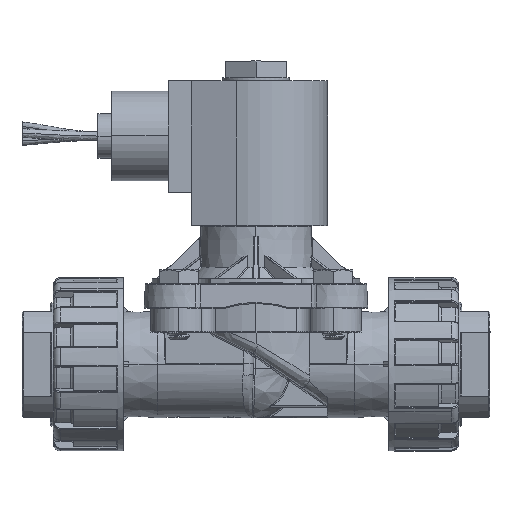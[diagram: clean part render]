
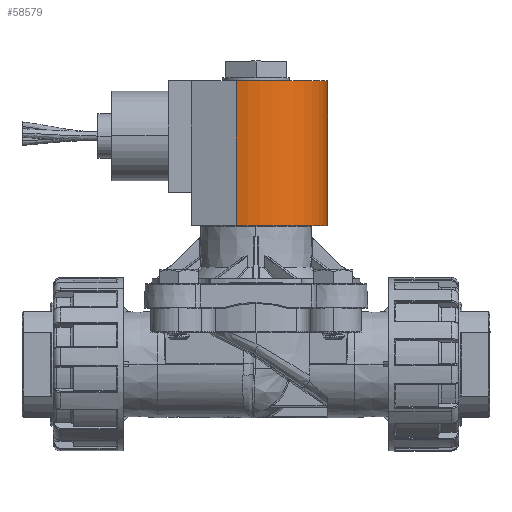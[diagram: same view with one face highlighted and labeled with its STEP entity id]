
A CAD part, top view. The second image highlights one B-rep face of the part: STEP entity #58579.
In plain terms, the highlighted cylindrical face has radius 20.32 mm (diameter 40.64 mm), a partial arc.
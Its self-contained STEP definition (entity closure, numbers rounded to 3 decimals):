
#809 = FACE_OUTER_BOUND ( 'NONE', #121143, .T. ) ;
#2674 = CIRCLE ( 'NONE', #22623, 20.32 ) ;
#6410 = DIRECTION ( 'NONE',  ( 0., 1., 0. ) ) ;
#6596 = ORIENTED_EDGE ( 'NONE', *, *, #27819, .T. ) ;
#22182 = ORIENTED_EDGE ( 'NONE', *, *, #112175, .T. ) ;
#22623 = AXIS2_PLACEMENT_3D ( 'NONE', #64410, #6410, #44488 ) ;
#24454 = EDGE_CURVE ( 'NONE', #75391, #77010, #2674, .T. ) ;
#25449 = DIRECTION ( 'NONE',  ( 0., -1., 0. ) ) ;
#27819 = EDGE_CURVE ( 'NONE', #33010, #83760, #36796, .T. ) ;
#28473 = EDGE_CURVE ( 'NONE', #77010, #83760, #91597, .T. ) ;
#33010 = VERTEX_POINT ( 'NONE', #121516 ) ;
#36796 = CIRCLE ( 'NONE', #100548, 20.32 ) ;
#39471 = CARTESIAN_POINT ( 'NONE',  ( 0., 73.508, 0. ) ) ;
#41642 = DIRECTION ( 'NONE',  ( 0., -1., 0. ) ) ;
#43560 = CARTESIAN_POINT ( 'NONE',  ( 20.32, 73.508, 0. ) ) ;
#44488 = DIRECTION ( 'NONE',  ( -1., 0., 0. ) ) ;
#48182 = CARTESIAN_POINT ( 'NONE',  ( 20.32, 32.36, 0. ) ) ;
#58579 = ADVANCED_FACE ( 'Defeatured_0_1789', ( #809 ), #96238, .T. ) ;
#64410 = CARTESIAN_POINT ( 'NONE',  ( 0., 73.508, 0. ) ) ;
#67657 = CARTESIAN_POINT ( 'NONE',  ( -5.608, 73.508, 19.531 ) ) ;
#68029 = VECTOR ( 'NONE', #41642, 1000. ) ;
#68150 = DIRECTION ( 'NONE',  ( 1., 0., 0. ) ) ;
#73786 = DIRECTION ( 'NONE',  ( -1., 0., 0. ) ) ;
#75391 = VERTEX_POINT ( 'NONE', #67657 ) ;
#77010 = VERTEX_POINT ( 'NONE', #105371 ) ;
#81117 = AXIS2_PLACEMENT_3D ( 'NONE', #39471, #115512, #68150 ) ;
#82559 = DIRECTION ( 'NONE',  ( 0., 1., 0. ) ) ;
#83760 = VERTEX_POINT ( 'NONE', #48182 ) ;
#86050 = ORIENTED_EDGE ( 'NONE', *, *, #28473, .F. ) ;
#91597 = LINE ( 'NONE', #43560, #102589 ) ;
#96238 = CYLINDRICAL_SURFACE ( 'NONE', #81117, 20.32 ) ;
#100548 = AXIS2_PLACEMENT_3D ( 'NONE', #101836, #82559, #73786 ) ;
#101836 = CARTESIAN_POINT ( 'NONE',  ( 0., 32.36, 0. ) ) ;
#102589 = VECTOR ( 'NONE', #25449, 1000. ) ;
#105371 = CARTESIAN_POINT ( 'NONE',  ( 20.32, 73.508, 0. ) ) ;
#112175 = EDGE_CURVE ( 'NONE', #75391, #33010, #118281, .T. ) ;
#115512 = DIRECTION ( 'NONE',  ( 0., -1., 0. ) ) ;
#116442 = CARTESIAN_POINT ( 'NONE',  ( -5.608, 73.508, 19.531 ) ) ;
#118191 = ORIENTED_EDGE ( 'NONE', *, *, #24454, .F. ) ;
#118281 = LINE ( 'NONE', #116442, #68029 ) ;
#121143 = EDGE_LOOP ( 'NONE', ( #86050, #118191, #22182, #6596 ) ) ;
#121516 = CARTESIAN_POINT ( 'NONE',  ( -5.608, 32.36, 19.531 ) ) ;
